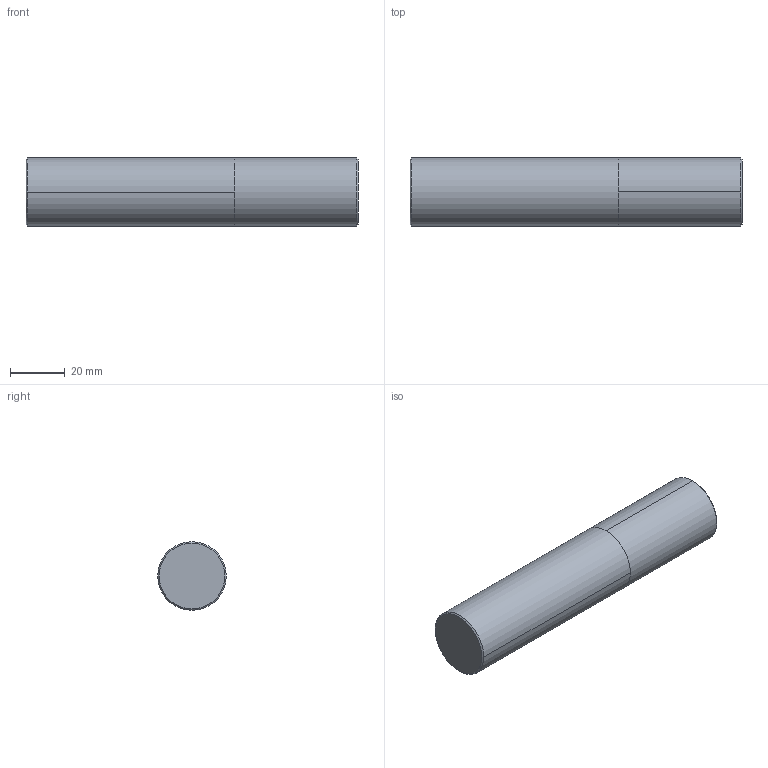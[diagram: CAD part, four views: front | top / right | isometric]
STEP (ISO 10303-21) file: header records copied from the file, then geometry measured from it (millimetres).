
FILE_DESCRIPTION (( 'STEP AP214' ), '1' );
FILE_NAME ('EM99940672.STEP', '2021-02-19T08:53:07', ( 'USER' ), ( 'Hewlett-Packard Company' ), 'SwSTEP 2.0', 'SolidWorks 2014', '' );
FILE_SCHEMA (( 'AUTOMOTIVE_DESIGN' ));
Length unit declared in the file: millimetre
Products named in the file (1): EM99940672
Bounding box: 121 x 25 x 25 mm (x, y, z)
Volume: 59376.4 mm3; surface area: 11420.2 mm2
Topology: 2 solids, 2 shells, 12 faces, 20 edges, 12 vertices
Faces by surface type: cylinder 4, cone 4, plane 4
Entity records: 393 total; most frequent: DIRECTION 58, CARTESIAN_POINT 45, ORIENTED_EDGE 40, AXIS2_PLACEMENT_3D 25, EDGE_CURVE 20, ADVANCED_FACE 12, FACE_OUTER_BOUND 12, VERTEX_POINT 12
